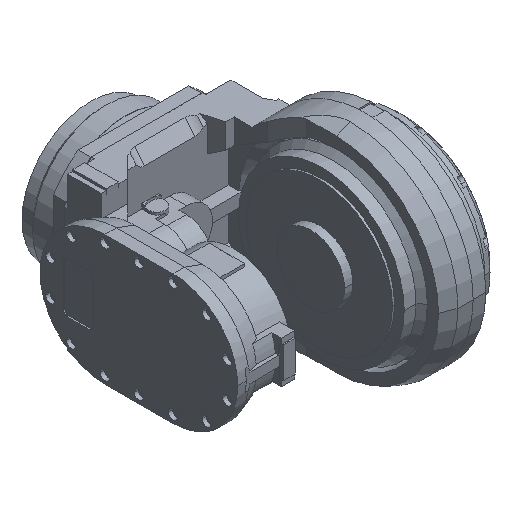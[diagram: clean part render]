
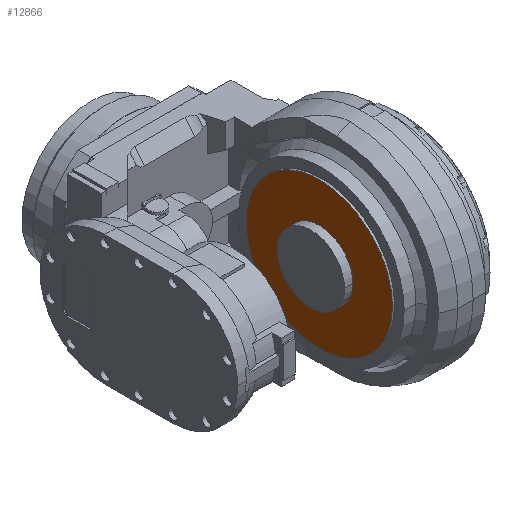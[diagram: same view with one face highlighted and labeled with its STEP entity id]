
A CAD part, isometric view. The second image highlights one B-rep face of the part: STEP entity #12866.
In plain terms, the highlighted planar face has unit normal (-1, 0, 0).
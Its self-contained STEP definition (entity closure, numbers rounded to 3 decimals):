
#12742=CARTESIAN_POINT('Vertex',(50.,1802.,2030.)) ;
#12749=CARTESIAN_POINT('Vertex',(50.,1628.,2030.)) ;
#12752=CARTESIAN_POINT('Axis2P3D Location',(50.,1715.,2030.)) ;
#12756=CARTESIAN_POINT('Vertex',(50.,1677.411,1951.539)) ;
#12759=CARTESIAN_POINT('Axis2P3D Location',(50.,1715.,2030.)) ;
#12778=CARTESIAN_POINT('Axis2P3D Location',(50.,1715.,2030.)) ;
#12782=CARTESIAN_POINT('Vertex',(50.,1752.589,2108.461)) ;
#12785=CARTESIAN_POINT('Axis2P3D Location',(50.,1715.,2030.)) ;
#12821=CARTESIAN_POINT('Axis2P3D Location',(50.,1715.,1990.)) ;
#12832=CARTESIAN_POINT('Axis2P3D Location',(50.,1715.,2030.)) ;
#12836=CARTESIAN_POINT('Vertex',(50.,1714.833,1990.)) ;
#12838=CARTESIAN_POINT('Vertex',(50.,1755.,2030.)) ;
#12841=CARTESIAN_POINT('Axis2P3D Location',(50.,1715.,2030.)) ;
#12845=CARTESIAN_POINT('Vertex',(50.,1715.167,2070.)) ;
#12848=CARTESIAN_POINT('Axis2P3D Location',(50.,1715.,2030.)) ;
#12852=CARTESIAN_POINT('Vertex',(50.,1675.,2030.)) ;
#12855=CARTESIAN_POINT('Axis2P3D Location',(50.,1715.,2030.)) ;
#12753=DIRECTION('Axis2P3D Direction',(1.,0.,0.)) ;
#12760=DIRECTION('Axis2P3D Direction',(1.,0.,0.)) ;
#12779=DIRECTION('Axis2P3D Direction',(1.,0.,0.)) ;
#12786=DIRECTION('Axis2P3D Direction',(1.,0.,0.)) ;
#12822=DIRECTION('Axis2P3D Direction',(1.,0.,0.)) ;
#12823=DIRECTION('Axis2P3D XDirection',(0.,0.,-1.)) ;
#12833=DIRECTION('Axis2P3D Direction',(1.,0.,0.)) ;
#12842=DIRECTION('Axis2P3D Direction',(1.,0.,0.)) ;
#12849=DIRECTION('Axis2P3D Direction',(1.,0.,0.)) ;
#12856=DIRECTION('Axis2P3D Direction',(1.,0.,0.)) ;
#12754=AXIS2_PLACEMENT_3D('Circle Axis2P3D',#12752,#12753,$) ;
#12761=AXIS2_PLACEMENT_3D('Circle Axis2P3D',#12759,#12760,$) ;
#12780=AXIS2_PLACEMENT_3D('Circle Axis2P3D',#12778,#12779,$) ;
#12787=AXIS2_PLACEMENT_3D('Circle Axis2P3D',#12785,#12786,$) ;
#12824=AXIS2_PLACEMENT_3D('Plane Axis2P3D',#12821,#12822,#12823) ;
#12834=AXIS2_PLACEMENT_3D('Circle Axis2P3D',#12832,#12833,$) ;
#12843=AXIS2_PLACEMENT_3D('Circle Axis2P3D',#12841,#12842,$) ;
#12850=AXIS2_PLACEMENT_3D('Circle Axis2P3D',#12848,#12849,$) ;
#12857=AXIS2_PLACEMENT_3D('Circle Axis2P3D',#12855,#12856,$) ;
#12827=ORIENTED_EDGE('',*,*,#12758,.F.) ;
#12828=ORIENTED_EDGE('',*,*,#12789,.F.) ;
#12829=ORIENTED_EDGE('',*,*,#12784,.F.) ;
#12830=ORIENTED_EDGE('',*,*,#12763,.F.) ;
#12861=ORIENTED_EDGE('',*,*,#12840,.T.) ;
#12862=ORIENTED_EDGE('',*,*,#12847,.T.) ;
#12863=ORIENTED_EDGE('',*,*,#12854,.T.) ;
#12864=ORIENTED_EDGE('',*,*,#12859,.T.) ;
#12865=FACE_BOUND('',#12860,.T.) ;
#12866=ADVANCED_FACE('PartBody',(#12831,#12865),#12825,.F.) ;
#12755=CIRCLE('generated circle',#12754,87.) ;
#12762=CIRCLE('generated circle',#12761,87.) ;
#12781=CIRCLE('generated circle',#12780,87.) ;
#12788=CIRCLE('generated circle',#12787,87.) ;
#12835=CIRCLE('generated circle',#12834,40.) ;
#12844=CIRCLE('generated circle',#12843,40.) ;
#12851=CIRCLE('generated circle',#12850,40.) ;
#12858=CIRCLE('generated circle',#12857,40.) ;
#12758=EDGE_CURVE('',#12750,#12757,#12755,.T.) ;
#12763=EDGE_CURVE('',#12757,#12743,#12762,.T.) ;
#12784=EDGE_CURVE('',#12743,#12783,#12781,.T.) ;
#12789=EDGE_CURVE('',#12783,#12750,#12788,.T.) ;
#12840=EDGE_CURVE('',#12837,#12839,#12835,.T.) ;
#12847=EDGE_CURVE('',#12839,#12846,#12844,.T.) ;
#12854=EDGE_CURVE('',#12846,#12853,#12851,.T.) ;
#12859=EDGE_CURVE('',#12853,#12837,#12858,.T.) ;
#12826=EDGE_LOOP('',(#12827,#12828,#12829,#12830)) ;
#12860=EDGE_LOOP('',(#12861,#12862,#12863,#12864)) ;
#12831=FACE_OUTER_BOUND('',#12826,.T.) ;
#12825=PLANE('',#12824) ;
#12743=VERTEX_POINT('',#12742) ;
#12750=VERTEX_POINT('',#12749) ;
#12757=VERTEX_POINT('',#12756) ;
#12783=VERTEX_POINT('',#12782) ;
#12837=VERTEX_POINT('',#12836) ;
#12839=VERTEX_POINT('',#12838) ;
#12846=VERTEX_POINT('',#12845) ;
#12853=VERTEX_POINT('',#12852) ;
